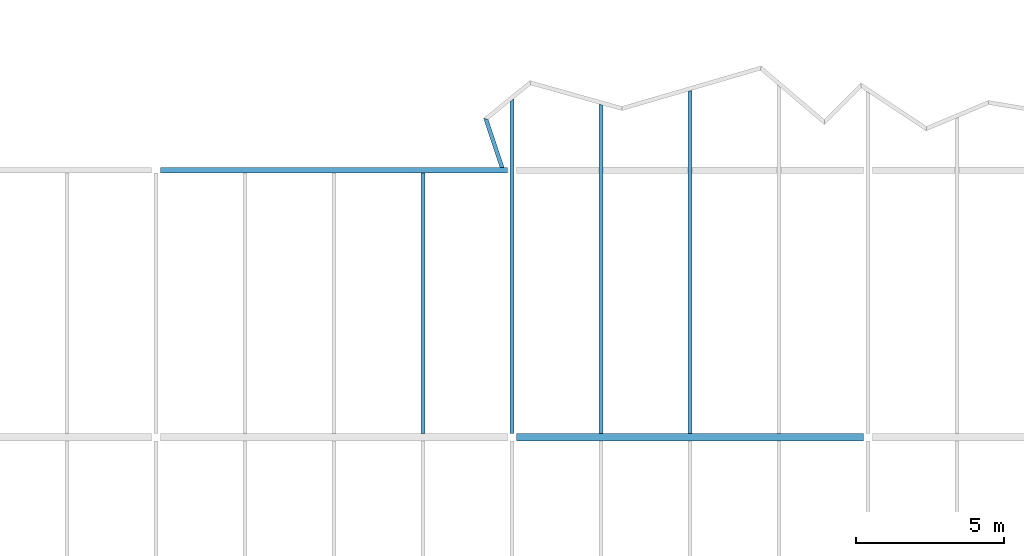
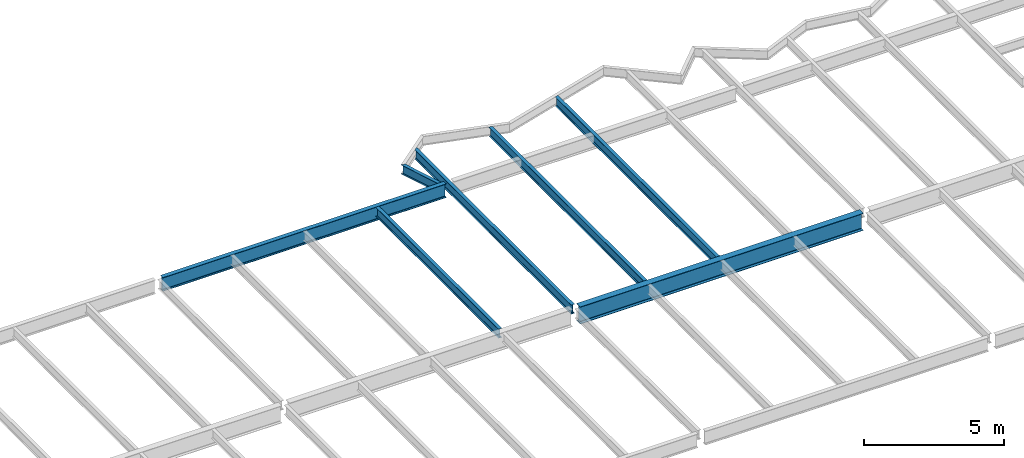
# One storey, part 16 of 21: 7 beams.
"""IFC2X3 building model written with IfcOpenShell, lengths in millimetres."""

from ifc_helpers import new_model, si_unit, origin, place, context, project, spatial, faceted_brep, material, element, save


model = new_model("IFC2X3")

# Units and contexts
context_of_model = context(None, 3, precision=1e-05, world=origin())
ifc_project = project(units=[si_unit("LENGTHUNIT", "METRE", prefix="MILLI")], contexts=[context_of_model])

# Building, storey
building = spatial("IfcBuilding", under=ifc_project, Name="Building", CompositionType="ELEMENT")
storey = spatial("IfcBuildingStorey", under=building, Name="FL6-FRM", CompositionType="ELEMENT")

# Beams
ifc_material_1 = material(Name="A992")
beam_1_placement = place(None, origin())
element("IfcBeam", 1, at=beam_1_placement, inside=storey, material=ifc_material_1, Name="B880", context=context_of_model, shape_type="Brep", body=[
    faceted_brep([(56930.0, 26910.5, 21970.0), (57070.0, 26910.5, 21970.0), (57070.0, 18132.5, 21970.0), (56930.0, 18132.5, 21970.0), (57070.0, 26910.5, 21981.2), (57070.0, 18132.5, 21981.2), (57013.7, 26910.5, 21981.2), (57013.7, 18132.5, 21981.2), (57011.1, 26910.5, 21981.5), (57011.1, 18132.5, 21981.5), (57008.6, 26910.5, 21982.6), (57008.6, 18132.5, 21982.6), (57006.5, 26910.5, 21984.2), (57006.5, 18132.5, 21984.2), (57004.9, 26910.5, 21986.3), (57004.9, 18132.5, 21986.3), (57003.8, 26910.5, 21988.8), (57003.8, 18132.5, 21988.8), (57003.5, 26910.5, 21991.4), (57003.5, 18132.5, 21991.4), (57003.5, 26910.5, 22351.6), (57003.5, 18132.5, 22351.6), (57003.8, 26910.5, 22354.2), (57003.8, 18132.5, 22354.2), (57004.9, 26910.5, 22356.7), (57004.9, 18132.5, 22356.7), (57006.5, 26910.5, 22358.8), (57006.5, 18132.5, 22358.8), (57008.6, 26910.5, 22360.4), (57008.6, 18132.5, 22360.4), (57011.1, 26910.5, 22361.5), (57011.1, 18132.5, 22361.5), (57013.7, 26910.5, 22361.8), (57013.7, 18132.5, 22361.8), (57070.0, 26910.5, 22361.8), (57070.0, 18132.5, 22361.8), (57070.0, 26910.5, 22373.0), (57070.0, 18132.5, 22373.0), (56930.0, 26910.5, 22373.0), (56930.0, 18132.5, 22373.0), (56930.0, 26910.5, 22361.8), (56930.0, 18132.5, 22361.8), (56986.3, 26910.5, 22361.8), (56986.3, 18132.5, 22361.8), (56988.9, 26910.5, 22361.5), (56988.9, 18132.5, 22361.5), (56991.4, 26910.5, 22360.4), (56991.4, 18132.5, 22360.4), (56993.5, 26910.5, 22358.8), (56993.5, 18132.5, 22358.8), (56995.1, 26910.5, 22356.7), (56995.1, 18132.5, 22356.7), (56996.2, 26910.5, 22354.2), (56996.2, 18132.5, 22354.2), (56996.5, 26910.5, 22351.6), (56996.5, 18132.5, 22351.6), (56996.5, 26910.5, 21991.4), (56996.5, 18132.5, 21991.4), (56996.2, 26910.5, 21988.8), (56996.2, 18132.5, 21988.8), (56995.1, 26910.5, 21986.3), (56995.1, 18132.5, 21986.3), (56993.5, 26910.5, 21984.2), (56993.5, 18132.5, 21984.2), (56991.4, 26910.5, 21982.6), (56991.4, 18132.5, 21982.6), (56988.9, 26910.5, 21981.5), (56988.9, 18132.5, 21981.5), (56986.3, 26910.5, 21981.2), (56986.3, 18132.5, 21981.2), (56930.0, 26910.5, 21981.2), (56930.0, 18132.5, 21981.2)], [[[0, 1, 2, 3]], [[1, 4, 5, 2]], [[4, 6, 7, 5]], [[6, 8, 9, 7]], [[8, 10, 11, 9]], [[10, 12, 13, 11]], [[12, 14, 15, 13]], [[14, 16, 17, 15]], [[16, 18, 19, 17]], [[18, 20, 21, 19]], [[20, 22, 23, 21]], [[22, 24, 25, 23]], [[24, 26, 27, 25]], [[26, 28, 29, 27]], [[28, 30, 31, 29]], [[30, 32, 33, 31]], [[32, 34, 35, 33]], [[34, 36, 37, 35]], [[36, 38, 39, 37]], [[38, 40, 41, 39]], [[40, 42, 43, 41]], [[42, 44, 45, 43]], [[44, 46, 47, 45]], [[46, 48, 49, 47]], [[48, 50, 51, 49]], [[50, 52, 53, 51]], [[52, 54, 55, 53]], [[54, 56, 57, 55]], [[56, 58, 59, 57]], [[58, 60, 61, 59]], [[60, 62, 63, 61]], [[62, 64, 65, 63]], [[64, 66, 67, 65]], [[66, 68, 69, 67]], [[68, 70, 71, 69]], [[70, 0, 3, 71]], [[0, 70, 68, 66, 64, 62, 60, 58, 56, 54, 52, 50, 48, 46, 44, 42, 40, 38, 36, 34, 32, 30, 28, 26, 24, 22, 20, 18, 16, 14, 12, 10, 8, 6, 4, 1]], [[3, 2, 5, 7, 9, 11, 13, 15, 17, 19, 21, 23, 25, 27, 29, 31, 33, 35, 37, 39, 41, 43, 45, 47, 49, 51, 53, 55, 57, 59, 61, 63, 65, 67, 69, 71]]]),
])
ifc_material_2 = material(Name="A992")
beam_2_placement = place(None, origin())
element("IfcBeam", 2, at=beam_2_placement, inside=storey, material=ifc_material_2, Name="Column610", context=context_of_model, shape_type="Brep", body=[
    faceted_brep([(48153.0, 26910.5, 21770.0), (48153.0, 27089.5, 21770.0), (59846.0, 27089.5, 21770.0), (59846.0, 26910.5, 21770.0), (48153.0, 27089.5, 21785.0), (59846.0, 27089.5, 21785.0), (48153.0, 27020.6, 21785.0), (59846.0, 27020.6, 21785.0), (48153.0, 27016.7, 21785.5), (59846.0, 27016.7, 21785.5), (48153.0, 27013.0, 21787.0), (59846.0, 27013.0, 21787.0), (48153.0, 27009.9, 21789.5), (59846.0, 27009.9, 21789.5), (48153.0, 27007.5, 21792.6), (59846.0, 27007.5, 21792.6), (48153.0, 27006.0, 21796.3), (59846.0, 27006.0, 21796.3), (48153.0, 27005.4, 21800.2), (59846.0, 27005.4, 21800.2), (48153.0, 27005.4, 22342.8), (59846.0, 27005.4, 22342.8), (48153.0, 27006.0, 22346.7), (59846.0, 27006.0, 22346.7), (48153.0, 27007.5, 22350.4), (59846.0, 27007.5, 22350.4), (48153.0, 27009.9, 22353.5), (59846.0, 27009.9, 22353.5), (48153.0, 27013.0, 22356.0), (59846.0, 27013.0, 22356.0), (48153.0, 27016.7, 22357.5), (59846.0, 27016.7, 22357.5), (48153.0, 27020.6, 22358.0), (59846.0, 27020.6, 22358.0), (48153.0, 27089.5, 22358.0), (59846.0, 27089.5, 22358.0), (48153.0, 27089.5, 22373.0), (59846.0, 27089.5, 22373.0), (48153.0, 26910.5, 22373.0), (59846.0, 26910.5, 22373.0), (48153.0, 26910.5, 22358.0), (59846.0, 26910.5, 22358.0), (48153.0, 26979.4, 22358.0), (59846.0, 26979.4, 22358.0), (48153.0, 26983.3, 22357.5), (59846.0, 26983.3, 22357.5), (48153.0, 26987.0, 22356.0), (59846.0, 26987.0, 22356.0), (48153.0, 26990.1, 22353.5), (59846.0, 26990.1, 22353.5), (48153.0, 26992.5, 22350.4), (59846.0, 26992.5, 22350.4), (48153.0, 26994.0, 22346.7), (59846.0, 26994.0, 22346.7), (48153.0, 26994.6, 22342.8), (59846.0, 26994.6, 22342.8), (48153.0, 26994.6, 21800.2), (59846.0, 26994.6, 21800.2), (48153.0, 26994.0, 21796.3), (59846.0, 26994.0, 21796.3), (48153.0, 26992.5, 21792.6), (59846.0, 26992.5, 21792.6), (48153.0, 26990.1, 21789.5), (59846.0, 26990.1, 21789.5), (48153.0, 26987.0, 21787.0), (59846.0, 26987.0, 21787.0), (48153.0, 26983.3, 21785.5), (59846.0, 26983.3, 21785.5), (48153.0, 26979.4, 21785.0), (59846.0, 26979.4, 21785.0), (48153.0, 26910.5, 21785.0), (59846.0, 26910.5, 21785.0)], [[[0, 1, 2, 3]], [[1, 4, 5, 2]], [[4, 6, 7, 5]], [[6, 8, 9, 7]], [[8, 10, 11, 9]], [[10, 12, 13, 11]], [[12, 14, 15, 13]], [[14, 16, 17, 15]], [[16, 18, 19, 17]], [[18, 20, 21, 19]], [[20, 22, 23, 21]], [[22, 24, 25, 23]], [[24, 26, 27, 25]], [[26, 28, 29, 27]], [[28, 30, 31, 29]], [[30, 32, 33, 31]], [[32, 34, 35, 33]], [[34, 36, 37, 35]], [[36, 38, 39, 37]], [[38, 40, 41, 39]], [[40, 42, 43, 41]], [[42, 44, 45, 43]], [[44, 46, 47, 45]], [[46, 48, 49, 47]], [[48, 50, 51, 49]], [[50, 52, 53, 51]], [[52, 54, 55, 53]], [[54, 56, 57, 55]], [[56, 58, 59, 57]], [[58, 60, 61, 59]], [[60, 62, 63, 61]], [[62, 64, 65, 63]], [[64, 66, 67, 65]], [[66, 68, 69, 67]], [[68, 70, 71, 69]], [[70, 0, 3, 71]], [[0, 70, 68, 66, 64, 62, 60, 58, 56, 54, 52, 50, 48, 46, 44, 42, 40, 38, 36, 34, 32, 30, 28, 26, 24, 22, 20, 18, 16, 14, 12, 10, 8, 6, 4, 1]], [[3, 2, 5, 7, 9, 11, 13, 15, 17, 19, 21, 23, 25, 27, 29, 31, 33, 35, 37, 39, 41, 43, 45, 47, 49, 51, 53, 55, 57, 59, 61, 63, 65, 67, 69, 71]]]),
])
ifc_material_3 = material(Name="A992")
beam_3_placement = place(None, origin())
element("IfcBeam", 3, at=beam_3_placement, inside=storey, material=ifc_material_3, Name="B886", context=context_of_model, shape_type="Brep", body=[
    faceted_brep([(62930.0, 29224.4, 21970.0), (63070.0, 29185.1, 21970.0), (63070.0, 18132.5, 21970.0), (62930.0, 18132.5, 21970.0), (63070.0, 29185.1, 21981.2), (63070.0, 18132.5, 21981.2), (63013.7, 29200.9, 21981.2), (63013.7, 18132.5, 21981.2), (63012.3, 29201.3, 21981.3), (63012.2, 18132.5, 21981.3), (63010.8, 29201.7, 21981.6), (63010.8, 18132.5, 21981.6), (63009.5, 29202.1, 21982.1), (63009.5, 18132.5, 21982.1), (63008.2, 29202.5, 21982.8), (63008.2, 18132.5, 21982.8), (63007.0, 29202.8, 21983.7), (63007.0, 18132.5, 21983.7), (63006.0, 29203.1, 21984.7), (63006.0, 18132.5, 21984.7), (63005.1, 29203.3, 21985.9), (63005.1, 18132.5, 21985.9), (63004.4, 29203.5, 21987.2), (63004.4, 18132.5, 21987.2), (63003.9, 29203.7, 21988.5), (63003.9, 18132.5, 21988.5), (63003.6, 29203.7, 21989.9), (63003.6, 18132.5, 21989.9), (63003.5, 29203.8, 21991.4), (63003.5, 18132.5, 21991.4), (63003.5, 29203.8, 22351.6), (63003.5, 18132.5, 22351.6), (63003.6, 29203.7, 22353.1), (63003.6, 18132.5, 22353.1), (63003.9, 29203.7, 22354.5), (63003.9, 18132.5, 22354.5), (63004.4, 29203.5, 22355.8), (63004.4, 18132.5, 22355.8), (63005.1, 29203.3, 22357.1), (63005.1, 18132.5, 22357.1), (63006.0, 29203.1, 22358.3), (63006.0, 18132.5, 22358.3), (63007.0, 29202.8, 22359.3), (63007.0, 18132.5, 22359.3), (63008.2, 29202.5, 22360.2), (63008.2, 18132.5, 22360.2), (63009.5, 29202.1, 22360.9), (63009.5, 18132.5, 22360.9), (63010.8, 29201.7, 22361.4), (63010.8, 18132.5, 22361.4), (63012.3, 29201.3, 22361.7), (63012.2, 18132.5, 22361.7), (63013.7, 29200.9, 22361.8), (63013.7, 18132.5, 22361.8), (63070.0, 29185.1, 22361.8), (63070.0, 18132.5, 22361.8), (63070.0, 29185.1, 22373.0), (63070.0, 18132.5, 22373.0), (62930.0, 29224.4, 22373.0), (62930.0, 18132.5, 22373.0), (62930.0, 29224.4, 22361.8), (62930.0, 18132.5, 22361.8), (62986.3, 29208.6, 22361.8), (62986.3, 18132.5, 22361.8), (62987.7, 29208.2, 22361.7), (62987.8, 18132.5, 22361.7), (62989.2, 29207.8, 22361.4), (62989.2, 18132.5, 22361.4), (62990.5, 29207.4, 22360.9), (62990.5, 18132.5, 22360.9), (62991.8, 29207.1, 22360.2), (62991.8, 18132.5, 22360.2), (62993.0, 29206.7, 22359.3), (62993.0, 18132.5, 22359.3), (62994.0, 29206.4, 22358.3), (62994.0, 18132.5, 22358.3), (62994.9, 29206.2, 22357.1), (62994.9, 18132.5, 22357.1), (62995.6, 29206.0, 22355.8), (62995.6, 18132.5, 22355.8), (62996.1, 29205.9, 22354.5), (62996.1, 18132.5, 22354.5), (62996.4, 29205.8, 22353.1), (62996.4, 18132.5, 22353.1), (62996.5, 29205.7, 22351.6), (62996.5, 18132.5, 22351.6), (62996.5, 29205.7, 21991.4), (62996.5, 18132.5, 21991.4), (62996.4, 29205.8, 21989.9), (62996.4, 18132.5, 21989.9), (62996.1, 29205.9, 21988.5), (62996.1, 18132.5, 21988.5), (62995.6, 29206.0, 21987.2), (62995.6, 18132.5, 21987.2), (62994.9, 29206.2, 21985.9), (62994.9, 18132.5, 21985.9), (62994.0, 29206.4, 21984.7), (62994.0, 18132.5, 21984.7), (62993.0, 29206.7, 21983.7), (62993.0, 18132.5, 21983.7), (62991.8, 29207.1, 21982.8), (62991.8, 18132.5, 21982.8), (62990.5, 29207.4, 21982.1), (62990.5, 18132.5, 21982.1), (62989.2, 29207.8, 21981.6), (62989.2, 18132.5, 21981.6), (62987.7, 29208.2, 21981.3), (62987.8, 18132.5, 21981.3), (62986.3, 29208.6, 21981.2), (62986.3, 18132.5, 21981.2), (62930.0, 29224.4, 21981.2), (62930.0, 18132.5, 21981.2)], [[[0, 1, 2, 3]], [[1, 4, 5, 2]], [[4, 6, 7, 5]], [[6, 8, 9, 7]], [[8, 10, 11, 9]], [[10, 12, 13, 11]], [[12, 14, 15, 13]], [[14, 16, 17, 15]], [[16, 18, 19, 17]], [[18, 20, 21, 19]], [[20, 22, 23, 21]], [[22, 24, 25, 23]], [[24, 26, 27, 25]], [[26, 28, 29, 27]], [[28, 30, 31, 29]], [[30, 32, 33, 31]], [[32, 34, 35, 33]], [[34, 36, 37, 35]], [[36, 38, 39, 37]], [[38, 40, 41, 39]], [[40, 42, 43, 41]], [[42, 44, 45, 43]], [[44, 46, 47, 45]], [[46, 48, 49, 47]], [[48, 50, 51, 49]], [[50, 52, 53, 51]], [[52, 54, 55, 53]], [[54, 56, 57, 55]], [[56, 58, 59, 57]], [[58, 60, 61, 59]], [[60, 62, 63, 61]], [[62, 64, 65, 63]], [[64, 66, 67, 65]], [[66, 68, 69, 67]], [[68, 70, 71, 69]], [[70, 72, 73, 71]], [[72, 74, 75, 73]], [[74, 76, 77, 75]], [[76, 78, 79, 77]], [[78, 80, 81, 79]], [[80, 82, 83, 81]], [[82, 84, 85, 83]], [[84, 86, 87, 85]], [[86, 88, 89, 87]], [[88, 90, 91, 89]], [[90, 92, 93, 91]], [[92, 94, 95, 93]], [[94, 96, 97, 95]], [[96, 98, 99, 97]], [[98, 100, 101, 99]], [[100, 102, 103, 101]], [[102, 104, 105, 103]], [[104, 106, 107, 105]], [[106, 108, 109, 107]], [[108, 110, 111, 109]], [[110, 0, 3, 111]], [[0, 110, 108, 106, 104, 102, 100, 98, 96, 94, 92, 90, 88, 86, 84, 82, 80, 78, 76, 74, 72, 70, 68, 66, 64, 62, 60, 58, 56, 54, 52, 50, 48, 46, 44, 42, 40, 38, 36, 34, 32, 30, 28, 26, 24, 22, 20, 18, 16, 14, 12, 10, 8, 6, 4, 1]], [[3, 2, 5, 7, 9, 11, 13, 15, 17, 19, 21, 23, 25, 27, 29, 31, 33, 35, 37, 39, 41, 43, 45, 47, 49, 51, 53, 55, 57, 59, 61, 63, 65, 67, 69, 71, 73, 75, 77, 79, 81, 83, 85, 87, 89, 91, 93, 95, 97, 99, 101, 103, 105, 107, 109, 111]]]),
])
ifc_material_4 = material(Name="A992")
beam_4_placement = place(None, origin())
element("IfcBeam", 4, at=beam_4_placement, inside=storey, material=ifc_material_4, Name="B887", context=context_of_model, shape_type="Brep", body=[
    faceted_brep([(65930.0, 29656.7, 21970.0), (66070.0, 29697.5, 21970.0), (66070.0, 18132.5, 21970.0), (65930.0, 18132.5, 21970.0), (66070.0, 29697.5, 21981.2), (66070.0, 18132.5, 21981.2), (66013.7, 29681.1, 21981.2), (66013.7, 18132.5, 21981.2), (66012.3, 29680.7, 21981.3), (66012.2, 18132.5, 21981.3), (66010.8, 29680.2, 21981.6), (66010.8, 18132.5, 21981.6), (66009.5, 29679.8, 21982.1), (66009.5, 18132.5, 21982.1), (66008.2, 29679.5, 21982.8), (66008.2, 18132.5, 21982.8), (66007.0, 29679.1, 21983.7), (66007.0, 18132.5, 21983.7), (66006.0, 29678.8, 21984.7), (66006.0, 18132.5, 21984.7), (66005.1, 29678.6, 21985.9), (66005.1, 18132.5, 21985.9), (66004.4, 29678.4, 21987.2), (66004.4, 18132.5, 21987.2), (66003.9, 29678.2, 21988.5), (66003.9, 18132.5, 21988.5), (66003.6, 29678.1, 21989.9), (66003.6, 18132.5, 21989.9), (66003.5, 29678.1, 21991.4), (66003.5, 18132.5, 21991.4), (66003.5, 29678.1, 22351.6), (66003.5, 18132.5, 22351.6), (66003.6, 29678.1, 22353.1), (66003.6, 18132.5, 22353.1), (66003.9, 29678.2, 22354.5), (66003.9, 18132.5, 22354.5), (66004.4, 29678.4, 22355.8), (66004.4, 18132.5, 22355.8), (66005.1, 29678.6, 22357.1), (66005.1, 18132.5, 22357.1), (66006.0, 29678.8, 22358.3), (66006.0, 18132.5, 22358.3), (66007.0, 29679.1, 22359.3), (66007.0, 18132.5, 22359.3), (66008.2, 29679.5, 22360.2), (66008.2, 18132.5, 22360.2), (66009.5, 29679.8, 22360.9), (66009.5, 18132.5, 22360.9), (66010.8, 29680.2, 22361.4), (66010.8, 18132.5, 22361.4), (66012.3, 29680.7, 22361.7), (66012.2, 18132.5, 22361.7), (66013.7, 29681.1, 22361.8), (66013.7, 18132.5, 22361.8), (66070.0, 29697.5, 22361.8), (66070.0, 18132.5, 22361.8), (66070.0, 29697.5, 22373.0), (66070.0, 18132.5, 22373.0), (65930.0, 29656.7, 22373.0), (65930.0, 18132.5, 22373.0), (65930.0, 29656.7, 22361.8), (65930.0, 18132.5, 22361.8), (65986.3, 29673.1, 22361.8), (65986.3, 18132.5, 22361.8), (65987.7, 29673.5, 22361.7), (65987.8, 18132.5, 22361.7), (65989.2, 29673.9, 22361.4), (65989.2, 18132.5, 22361.4), (65990.5, 29674.3, 22360.9), (65990.5, 18132.5, 22360.9), (65991.8, 29674.7, 22360.2), (65991.8, 18132.5, 22360.2), (65993.0, 29675.0, 22359.3), (65993.0, 18132.5, 22359.3), (65994.0, 29675.3, 22358.3), (65994.0, 18132.5, 22358.3), (65994.9, 29675.6, 22357.1), (65994.9, 18132.5, 22357.1), (65995.6, 29675.8, 22355.8), (65995.6, 18132.5, 22355.8), (65996.1, 29675.9, 22354.5), (65996.1, 18132.5, 22354.5), (65996.4, 29676.0, 22353.1), (65996.4, 18132.5, 22353.1), (65996.5, 29676.1, 22351.6), (65996.5, 18132.5, 22351.6), (65996.5, 29676.1, 21991.4), (65996.5, 18132.5, 21991.4), (65996.4, 29676.0, 21989.9), (65996.4, 18132.5, 21989.9), (65996.1, 29675.9, 21988.5), (65996.1, 18132.5, 21988.5), (65995.6, 29675.8, 21987.2), (65995.6, 18132.5, 21987.2), (65994.9, 29675.6, 21985.9), (65994.9, 18132.5, 21985.9), (65994.0, 29675.3, 21984.7), (65994.0, 18132.5, 21984.7), (65993.0, 29675.0, 21983.7), (65993.0, 18132.5, 21983.7), (65991.8, 29674.7, 21982.8), (65991.8, 18132.5, 21982.8), (65990.5, 29674.3, 21982.1), (65990.5, 18132.5, 21982.1), (65989.2, 29673.9, 21981.6), (65989.2, 18132.5, 21981.6), (65987.7, 29673.5, 21981.3), (65987.8, 18132.5, 21981.3), (65986.3, 29673.1, 21981.2), (65986.3, 18132.5, 21981.2), (65930.0, 29656.7, 21981.2), (65930.0, 18132.5, 21981.2)], [[[0, 1, 2, 3]], [[1, 4, 5, 2]], [[4, 6, 7, 5]], [[6, 8, 9, 7]], [[8, 10, 11, 9]], [[10, 12, 13, 11]], [[12, 14, 15, 13]], [[14, 16, 17, 15]], [[16, 18, 19, 17]], [[18, 20, 21, 19]], [[20, 22, 23, 21]], [[22, 24, 25, 23]], [[24, 26, 27, 25]], [[26, 28, 29, 27]], [[28, 30, 31, 29]], [[30, 32, 33, 31]], [[32, 34, 35, 33]], [[34, 36, 37, 35]], [[36, 38, 39, 37]], [[38, 40, 41, 39]], [[40, 42, 43, 41]], [[42, 44, 45, 43]], [[44, 46, 47, 45]], [[46, 48, 49, 47]], [[48, 50, 51, 49]], [[50, 52, 53, 51]], [[52, 54, 55, 53]], [[54, 56, 57, 55]], [[56, 58, 59, 57]], [[58, 60, 61, 59]], [[60, 62, 63, 61]], [[62, 64, 65, 63]], [[64, 66, 67, 65]], [[66, 68, 69, 67]], [[68, 70, 71, 69]], [[70, 72, 73, 71]], [[72, 74, 75, 73]], [[74, 76, 77, 75]], [[76, 78, 79, 77]], [[78, 80, 81, 79]], [[80, 82, 83, 81]], [[82, 84, 85, 83]], [[84, 86, 87, 85]], [[86, 88, 89, 87]], [[88, 90, 91, 89]], [[90, 92, 93, 91]], [[92, 94, 95, 93]], [[94, 96, 97, 95]], [[96, 98, 99, 97]], [[98, 100, 101, 99]], [[100, 102, 103, 101]], [[102, 104, 105, 103]], [[104, 106, 107, 105]], [[106, 108, 109, 107]], [[108, 110, 111, 109]], [[110, 0, 3, 111]], [[0, 110, 108, 106, 104, 102, 100, 98, 96, 94, 92, 90, 88, 86, 84, 82, 80, 78, 76, 74, 72, 70, 68, 66, 64, 62, 60, 58, 56, 54, 52, 50, 48, 46, 44, 42, 40, 38, 36, 34, 32, 30, 28, 26, 24, 22, 20, 18, 16, 14, 12, 10, 8, 6, 4, 1]], [[3, 2, 5, 7, 9, 11, 13, 15, 17, 19, 21, 23, 25, 27, 29, 31, 33, 35, 37, 39, 41, 43, 45, 47, 49, 51, 53, 55, 57, 59, 61, 63, 65, 67, 69, 71, 73, 75, 77, 79, 81, 83, 85, 87, 89, 91, 93, 95, 97, 99, 101, 103, 105, 107, 109, 111]]]),
])
ifc_material_5 = material(Name="A992")
beam_5_placement = place(None, origin())
element("IfcBeam", 5, at=beam_5_placement, inside=storey, material=ifc_material_5, Name="B889", context=context_of_model, shape_type="Brep", body=[
    faceted_brep([(60070.0, 18132.5, 21970.0), (59930.0, 18132.5, 21970.0), (59930.0, 29301.5, 21970.0), (60070.0, 29415.4, 21970.0), (59930.0, 18132.5, 21981.2), (59930.0, 29301.5, 21981.2), (59986.3, 18132.5, 21981.2), (59986.3, 29347.3, 21981.2), (59987.9, 18132.5, 21981.3), (59987.9, 29348.6, 21981.3), (59989.5, 18132.5, 21981.7), (59989.4, 29349.8, 21981.7), (59990.9, 18132.5, 21982.3), (59990.9, 29351.0, 21982.3), (59992.3, 18132.5, 21983.1), (59992.3, 29352.1, 21983.1), (59993.5, 18132.5, 21984.2), (59993.5, 29353.1, 21984.2), (59994.6, 18132.5, 21985.4), (59994.5, 29354.0, 21985.4), (59995.4, 18132.5, 21986.8), (59995.4, 29354.7, 21986.7), (59996.0, 18132.5, 21988.2), (59996.0, 29355.1, 21988.2), (59996.4, 18132.5, 21989.8), (59996.4, 29355.4, 21989.8), (59996.5, 18132.5, 21991.4), (59996.5, 29355.6, 21991.4), (59996.5, 18132.5, 22351.6), (59996.5, 29355.6, 22351.6), (59996.4, 18132.5, 22353.2), (59996.4, 29355.4, 22353.2), (59996.0, 18132.5, 22354.8), (59996.0, 29355.1, 22354.8), (59995.4, 18132.5, 22356.2), (59995.4, 29354.7, 22356.3), (59994.6, 18132.5, 22357.6), (59994.5, 29354.0, 22357.6), (59993.5, 18132.5, 22358.8), (59993.5, 29353.1, 22358.8), (59992.3, 18132.5, 22359.9), (59992.3, 29352.1, 22359.9), (59990.9, 18132.5, 22360.7), (59990.9, 29351.0, 22360.7), (59989.5, 18132.5, 22361.3), (59989.4, 29349.8, 22361.3), (59987.9, 18132.5, 22361.7), (59987.9, 29348.6, 22361.7), (59986.3, 18132.5, 22361.8), (59986.3, 29347.3, 22361.8), (59930.0, 18132.5, 22361.8), (59930.0, 29301.5, 22361.8), (59930.0, 18132.5, 22373.0), (59930.0, 29301.5, 22373.0), (60070.0, 18132.5, 22373.0), (60070.0, 29415.4, 22373.0), (60070.0, 18132.5, 22361.8), (60070.0, 29415.4, 22361.8), (60013.7, 18132.5, 22361.8), (60013.7, 29369.6, 22361.8), (60012.1, 18132.5, 22361.7), (60012.1, 29368.3, 22361.7), (60010.5, 18132.5, 22361.3), (60010.6, 29367.0, 22361.3), (60009.1, 18132.5, 22360.7), (60009.1, 29365.8, 22360.7), (60007.7, 18132.5, 22359.9), (60007.7, 29364.7, 22359.9), (60006.5, 18132.5, 22358.8), (60006.5, 29363.7, 22358.8), (60005.4, 18132.5, 22357.6), (60005.5, 29362.9, 22357.6), (60004.6, 18132.5, 22356.2), (60004.6, 29362.2, 22356.3), (60004.0, 18132.5, 22354.8), (60004.0, 29361.7, 22354.8), (60003.6, 18132.5, 22353.2), (60003.6, 29361.4, 22353.2), (60003.5, 18132.5, 22351.6), (60003.5, 29361.3, 22351.6), (60003.5, 18132.5, 21991.4), (60003.5, 29361.3, 21991.4), (60003.6, 18132.5, 21989.8), (60003.6, 29361.4, 21989.8), (60004.0, 18132.5, 21988.2), (60004.0, 29361.7, 21988.2), (60004.6, 18132.5, 21986.8), (60004.6, 29362.2, 21986.7), (60005.4, 18132.5, 21985.4), (60005.5, 29362.9, 21985.4), (60006.5, 18132.5, 21984.2), (60006.5, 29363.7, 21984.2), (60007.7, 18132.5, 21983.1), (60007.7, 29364.7, 21983.1), (60009.1, 18132.5, 21982.3), (60009.1, 29365.8, 21982.3), (60010.5, 18132.5, 21981.7), (60010.6, 29367.0, 21981.7), (60012.1, 18132.5, 21981.3), (60012.1, 29368.3, 21981.3), (60013.7, 18132.5, 21981.2), (60013.7, 29369.6, 21981.2), (60070.0, 18132.5, 21981.2), (60070.0, 29415.4, 21981.2)], [[[0, 1, 2, 3]], [[1, 4, 5, 2]], [[4, 6, 7, 5]], [[6, 8, 9, 7]], [[8, 10, 11, 9]], [[10, 12, 13, 11]], [[12, 14, 15, 13]], [[14, 16, 17, 15]], [[16, 18, 19, 17]], [[18, 20, 21, 19]], [[20, 22, 23, 21]], [[22, 24, 25, 23]], [[24, 26, 27, 25]], [[26, 28, 29, 27]], [[28, 30, 31, 29]], [[30, 32, 33, 31]], [[32, 34, 35, 33]], [[34, 36, 37, 35]], [[36, 38, 39, 37]], [[38, 40, 41, 39]], [[40, 42, 43, 41]], [[42, 44, 45, 43]], [[44, 46, 47, 45]], [[46, 48, 49, 47]], [[48, 50, 51, 49]], [[50, 52, 53, 51]], [[52, 54, 55, 53]], [[54, 56, 57, 55]], [[56, 58, 59, 57]], [[58, 60, 61, 59]], [[60, 62, 63, 61]], [[62, 64, 65, 63]], [[64, 66, 67, 65]], [[66, 68, 69, 67]], [[68, 70, 71, 69]], [[70, 72, 73, 71]], [[72, 74, 75, 73]], [[74, 76, 77, 75]], [[76, 78, 79, 77]], [[78, 80, 81, 79]], [[80, 82, 83, 81]], [[82, 84, 85, 83]], [[84, 86, 87, 85]], [[86, 88, 89, 87]], [[88, 90, 91, 89]], [[90, 92, 93, 91]], [[92, 94, 95, 93]], [[94, 96, 97, 95]], [[96, 98, 99, 97]], [[98, 100, 101, 99]], [[100, 102, 103, 101]], [[102, 0, 3, 103]], [[0, 102, 100, 98, 96, 94, 92, 90, 88, 86, 84, 82, 80, 78, 76, 74, 72, 70, 68, 66, 64, 62, 60, 58, 56, 54, 52, 50, 48, 46, 44, 42, 40, 38, 36, 34, 32, 30, 28, 26, 24, 22, 20, 18, 16, 14, 12, 10, 8, 6, 4, 1]], [[3, 2, 5, 7, 9, 11, 13, 15, 17, 19, 21, 23, 25, 27, 29, 31, 33, 35, 37, 39, 41, 43, 45, 47, 49, 51, 53, 55, 57, 59, 61, 63, 65, 67, 69, 71, 73, 75, 77, 79, 81, 83, 85, 87, 89, 91, 93, 95, 97, 99, 101, 103]]]),
])
ifc_material_6 = material(Name="A992")
beam_6_placement = place(None, origin())
element("IfcBeam", 6, at=beam_6_placement, inside=storey, material=ifc_material_6, Name="Column612", context=context_of_model, shape_type="Brep", body=[
    faceted_brep([(60157.0, 17867.5, 21620.0), (60157.0, 18132.5, 21620.0), (71843.0, 18132.5, 21620.0), (71843.0, 17867.5, 21620.0), (60157.0, 18132.5, 21637.0), (71843.0, 18132.5, 21637.0), (60157.0, 18023.1, 21637.0), (71843.0, 18023.1, 21637.0), (60157.0, 18018.8, 21637.6), (71843.0, 18018.8, 21637.6), (60157.0, 18014.8, 21639.2), (71843.0, 18014.8, 21639.2), (60157.0, 18011.4, 21641.8), (71843.0, 18011.4, 21641.8), (60157.0, 18008.8, 21645.2), (71843.0, 18008.8, 21645.2), (60157.0, 18007.2, 21649.2), (71843.0, 18007.2, 21649.2), (60157.0, 18006.6, 21653.5), (71843.0, 18006.6, 21653.5), (60157.0, 18006.6, 22339.5), (71843.0, 18006.6, 22339.5), (60157.0, 18007.2, 22343.8), (71843.0, 18007.2, 22343.8), (60157.0, 18008.8, 22347.7), (71843.0, 18008.8, 22347.7), (60157.0, 18011.4, 22351.2), (71843.0, 18011.4, 22351.2), (60157.0, 18014.8, 22353.8), (71843.0, 18014.8, 22353.8), (60157.0, 18018.8, 22355.4), (71843.0, 18018.8, 22355.4), (60157.0, 18023.1, 22356.0), (71843.0, 18023.1, 22356.0), (60157.0, 18132.5, 22356.0), (71843.0, 18132.5, 22356.0), (60157.0, 18132.5, 22373.0), (71843.0, 18132.5, 22373.0), (60157.0, 17867.5, 22373.0), (71843.0, 17867.5, 22373.0), (60157.0, 17867.5, 22356.0), (71843.0, 17867.5, 22356.0), (60157.0, 17976.9, 22356.0), (71843.0, 17976.9, 22356.0), (60157.0, 17981.2, 22355.4), (71843.0, 17981.2, 22355.4), (60157.0, 17985.2, 22353.8), (71843.0, 17985.2, 22353.8), (60157.0, 17988.6, 22351.2), (71843.0, 17988.6, 22351.2), (60157.0, 17991.2, 22347.7), (71843.0, 17991.2, 22347.7), (60157.0, 17992.8, 22343.8), (71843.0, 17992.8, 22343.8), (60157.0, 17993.4, 22339.5), (71843.0, 17993.4, 22339.5), (60157.0, 17993.4, 21653.5), (71843.0, 17993.4, 21653.5), (60157.0, 17992.8, 21649.2), (71843.0, 17992.8, 21649.2), (60157.0, 17991.2, 21645.2), (71843.0, 17991.2, 21645.2), (60157.0, 17988.6, 21641.8), (71843.0, 17988.6, 21641.8), (60157.0, 17985.2, 21639.2), (71843.0, 17985.2, 21639.2), (60157.0, 17981.2, 21637.6), (71843.0, 17981.2, 21637.6), (60157.0, 17976.9, 21637.0), (71843.0, 17976.9, 21637.0), (60157.0, 17867.5, 21637.0), (71843.0, 17867.5, 21637.0)], [[[0, 1, 2, 3]], [[1, 4, 5, 2]], [[4, 6, 7, 5]], [[6, 8, 9, 7]], [[8, 10, 11, 9]], [[10, 12, 13, 11]], [[12, 14, 15, 13]], [[14, 16, 17, 15]], [[16, 18, 19, 17]], [[18, 20, 21, 19]], [[20, 22, 23, 21]], [[22, 24, 25, 23]], [[24, 26, 27, 25]], [[26, 28, 29, 27]], [[28, 30, 31, 29]], [[30, 32, 33, 31]], [[32, 34, 35, 33]], [[34, 36, 37, 35]], [[36, 38, 39, 37]], [[38, 40, 41, 39]], [[40, 42, 43, 41]], [[42, 44, 45, 43]], [[44, 46, 47, 45]], [[46, 48, 49, 47]], [[48, 50, 51, 49]], [[50, 52, 53, 51]], [[52, 54, 55, 53]], [[54, 56, 57, 55]], [[56, 58, 59, 57]], [[58, 60, 61, 59]], [[60, 62, 63, 61]], [[62, 64, 65, 63]], [[64, 66, 67, 65]], [[66, 68, 69, 67]], [[68, 70, 71, 69]], [[70, 0, 3, 71]], [[0, 70, 68, 66, 64, 62, 60, 58, 56, 54, 52, 50, 48, 46, 44, 42, 40, 38, 36, 34, 32, 30, 28, 26, 24, 22, 20, 18, 16, 14, 12, 10, 8, 6, 4, 1]], [[3, 2, 5, 7, 9, 11, 13, 15, 17, 19, 21, 23, 25, 27, 29, 31, 33, 35, 37, 39, 41, 43, 45, 47, 49, 51, 53, 55, 57, 59, 61, 63, 65, 67, 69, 71]]]),
])
ifc_material_7 = material(Name="A992")
beam_7_placement = place(None, origin())
element("IfcBeam", 7, at=beam_7_placement, inside=storey, material=ifc_material_7, Name="B928", context=context_of_model, shape_type="Brep", body=[
    faceted_brep([(59035.3, 28754.0, 21974.0), (59198.7, 28706.5, 21974.0), (59737.7, 27089.5, 21974.0), (59590.1, 27089.5, 21974.0), (59198.7, 28706.5, 21982.8), (59737.7, 27089.5, 21982.8), (59132.6, 28725.7, 21982.8), (59678.0, 27089.5, 21982.8), (59130.9, 28726.2, 21982.9), (59676.5, 27089.5, 21982.9), (59129.3, 28726.7, 21983.2), (59675.0, 27089.5, 21983.2), (59127.7, 28727.1, 21983.7), (59673.5, 27089.5, 21983.7), (59126.2, 28727.6, 21984.4), (59672.2, 27089.5, 21984.4), (59124.8, 28728.0, 21985.3), (59671.0, 27089.5, 21985.3), (59123.6, 28728.3, 21986.3), (59669.9, 27089.5, 21986.3), (59122.6, 28728.6, 21987.5), (59669.0, 27089.5, 21987.5), (59121.8, 28728.8, 21988.8), (59668.2, 27089.5, 21988.8), (59121.2, 28729.0, 21990.1), (59667.7, 27089.5, 21990.1), (59120.8, 28729.1, 21991.5), (59667.4, 27089.5, 21991.5), (59120.7, 28729.2, 21993.0), (59667.3, 27089.5, 21993.0), (59120.7, 28729.2, 22354.0), (59667.3, 27089.5, 22354.0), (59120.8, 28729.1, 22355.5), (59667.4, 27089.5, 22355.5), (59121.2, 28729.0, 22356.9), (59667.7, 27089.5, 22356.9), (59121.8, 28728.8, 22358.2), (59668.2, 27089.5, 22358.2), (59122.6, 28728.6, 22359.5), (59669.0, 27089.5, 22359.5), (59123.6, 28728.3, 22360.7), (59669.9, 27089.5, 22360.7), (59124.8, 28728.0, 22361.7), (59671.0, 27089.5, 22361.7), (59126.2, 28727.6, 22362.6), (59672.2, 27089.5, 22362.6), (59127.7, 28727.1, 22363.3), (59673.5, 27089.5, 22363.3), (59129.3, 28726.7, 22363.8), (59675.0, 27089.5, 22363.8), (59130.9, 28726.2, 22364.1), (59676.5, 27089.5, 22364.1), (59132.6, 28725.7, 22364.2), (59678.0, 27089.5, 22364.2), (59198.7, 28706.5, 22364.2), (59737.7, 27089.5, 22364.2), (59198.7, 28706.5, 22373.0), (59737.7, 27089.5, 22373.0), (59035.3, 28754.0, 22373.0), (59590.1, 27089.5, 22373.0), (59035.3, 28754.0, 22364.2), (59590.1, 27089.5, 22364.2), (59101.3, 28734.8, 22364.2), (59649.8, 27089.5, 22364.2), (59103.0, 28734.3, 22364.1), (59651.3, 27089.5, 22364.1), (59104.7, 28733.8, 22363.8), (59652.8, 27089.5, 22363.8), (59106.3, 28733.4, 22363.3), (59654.2, 27089.5, 22363.3), (59107.7, 28732.9, 22362.6), (59655.6, 27089.5, 22362.6), (59109.1, 28732.5, 22361.7), (59656.8, 27089.5, 22361.7), (59110.3, 28732.2, 22360.7), (59657.9, 27089.5, 22360.7), (59111.3, 28731.9, 22359.5), (59658.8, 27089.5, 22359.5), (59112.1, 28731.6, 22358.2), (59659.5, 27089.5, 22358.2), (59112.7, 28731.5, 22356.9), (59660.1, 27089.5, 22356.9), (59113.1, 28731.4, 22355.5), (59660.4, 27089.5, 22355.5), (59113.2, 28731.3, 22354.0), (59660.5, 27089.5, 22354.0), (59113.2, 28731.3, 21993.0), (59660.5, 27089.5, 21993.0), (59113.1, 28731.4, 21991.5), (59660.4, 27089.5, 21991.5), (59112.7, 28731.5, 21990.1), (59660.1, 27089.5, 21990.1), (59112.1, 28731.6, 21988.8), (59659.5, 27089.5, 21988.8), (59111.3, 28731.9, 21987.5), (59658.8, 27089.5, 21987.5), (59110.3, 28732.2, 21986.3), (59657.9, 27089.5, 21986.3), (59109.1, 28732.5, 21985.3), (59656.8, 27089.5, 21985.3), (59107.7, 28732.9, 21984.4), (59655.6, 27089.5, 21984.4), (59106.3, 28733.4, 21983.7), (59654.2, 27089.5, 21983.7), (59104.7, 28733.8, 21983.2), (59652.8, 27089.5, 21983.2), (59103.0, 28734.3, 21982.9), (59651.3, 27089.5, 21982.9), (59101.3, 28734.8, 21982.8), (59649.8, 27089.5, 21982.8), (59035.3, 28754.0, 21982.8), (59590.1, 27089.5, 21982.8)], [[[0, 1, 2, 3]], [[1, 4, 5, 2]], [[4, 6, 7, 5]], [[6, 8, 9, 7]], [[8, 10, 11, 9]], [[10, 12, 13, 11]], [[12, 14, 15, 13]], [[14, 16, 17, 15]], [[16, 18, 19, 17]], [[18, 20, 21, 19]], [[20, 22, 23, 21]], [[22, 24, 25, 23]], [[24, 26, 27, 25]], [[26, 28, 29, 27]], [[28, 30, 31, 29]], [[30, 32, 33, 31]], [[32, 34, 35, 33]], [[34, 36, 37, 35]], [[36, 38, 39, 37]], [[38, 40, 41, 39]], [[40, 42, 43, 41]], [[42, 44, 45, 43]], [[44, 46, 47, 45]], [[46, 48, 49, 47]], [[48, 50, 51, 49]], [[50, 52, 53, 51]], [[52, 54, 55, 53]], [[54, 56, 57, 55]], [[56, 58, 59, 57]], [[58, 60, 61, 59]], [[60, 62, 63, 61]], [[62, 64, 65, 63]], [[64, 66, 67, 65]], [[66, 68, 69, 67]], [[68, 70, 71, 69]], [[70, 72, 73, 71]], [[72, 74, 75, 73]], [[74, 76, 77, 75]], [[76, 78, 79, 77]], [[78, 80, 81, 79]], [[80, 82, 83, 81]], [[82, 84, 85, 83]], [[84, 86, 87, 85]], [[86, 88, 89, 87]], [[88, 90, 91, 89]], [[90, 92, 93, 91]], [[92, 94, 95, 93]], [[94, 96, 97, 95]], [[96, 98, 99, 97]], [[98, 100, 101, 99]], [[100, 102, 103, 101]], [[102, 104, 105, 103]], [[104, 106, 107, 105]], [[106, 108, 109, 107]], [[108, 110, 111, 109]], [[110, 0, 3, 111]], [[0, 110, 108, 106, 104, 102, 100, 98, 96, 94, 92, 90, 88, 86, 84, 82, 80, 78, 76, 74, 72, 70, 68, 66, 64, 62, 60, 58, 56, 54, 52, 50, 48, 46, 44, 42, 40, 38, 36, 34, 32, 30, 28, 26, 24, 22, 20, 18, 16, 14, 12, 10, 8, 6, 4, 1]], [[3, 2, 5, 7, 9, 11, 13, 15, 17, 19, 21, 23, 25, 27, 29, 31, 33, 35, 37, 39, 41, 43, 45, 47, 49, 51, 53, 55, 57, 59, 61, 63, 65, 67, 69, 71, 73, 75, 77, 79, 81, 83, 85, 87, 89, 91, 93, 95, 97, 99, 101, 103, 105, 107, 109, 111]]]),
])

save(model, "model.ifc")
